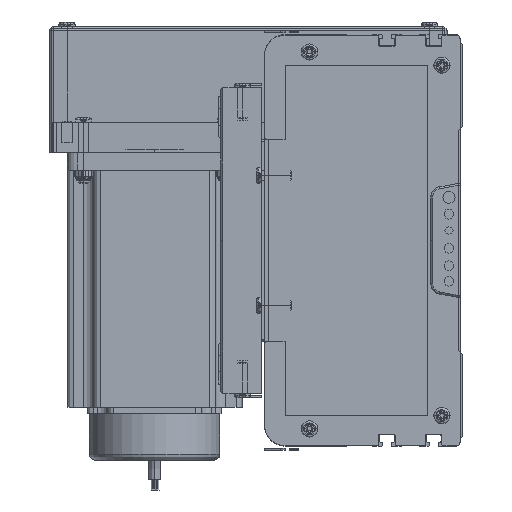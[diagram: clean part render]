
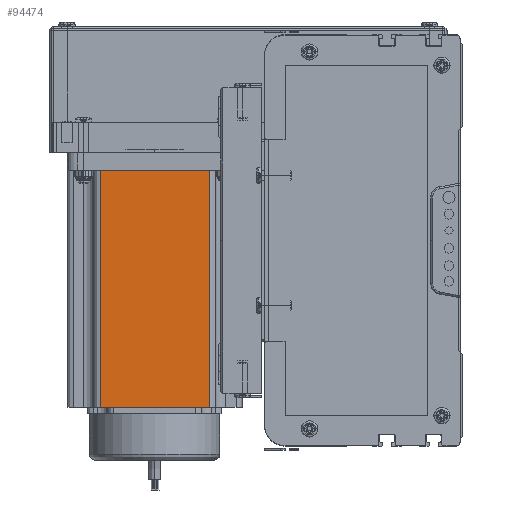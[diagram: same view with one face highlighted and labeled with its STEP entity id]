
A CAD part, left-side view. The second image highlights one B-rep face of the part: STEP entity #94474.
In plain terms, the highlighted planar face has unit normal (-1, 0, 0) as drawn and (0, -1, 0) by its records, which use the part's own axes.
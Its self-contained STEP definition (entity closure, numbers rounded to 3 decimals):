
#78173 = ORIENTED_EDGE ( 'NONE', *, *, #94440, .T. ) ;
#94440 = EDGE_CURVE ( 'NONE', #94651, #94477, #115618, .T. ) ;
#94463 = ORIENTED_EDGE ( 'NONE', *, *, #94666, .T. ) ;
#94465 = ORIENTED_EDGE ( 'NONE', *, *, #94657, .F. ) ;
#94474 = ADVANCED_FACE ( 'NONE', ( #115851 ), #115582, .F. ) ;
#94477 = VERTEX_POINT ( 'NONE', #115834 ) ;
#94478 = VERTEX_POINT ( 'NONE', #115849 ) ;
#94647 = ORIENTED_EDGE ( 'NONE', *, *, #94650, .T. ) ;
#94650 = EDGE_CURVE ( 'NONE', #94477, #94478, #117648, .T. ) ;
#94651 = VERTEX_POINT ( 'NONE', #117639 ) ;
#94657 = EDGE_CURVE ( 'NONE', #94662, #94478, #117644, .T. ) ;
#94662 = VERTEX_POINT ( 'NONE', #117083 ) ;
#94666 = EDGE_CURVE ( 'NONE', #94662, #94651, #117074, .T. ) ;
#94915 = EDGE_LOOP ( 'NONE', ( #78173, #94647, #94465, #94463 ) ) ;
#115577 = DIRECTION ( 'NONE',  ( 0., 0., 1. ) ) ;
#115578 = DIRECTION ( 'NONE',  ( 0., 1., 0. ) ) ;
#115580 = CARTESIAN_POINT ( 'NONE',  ( 0., 0., 116.5 ) ) ;
#115581 = AXIS2_PLACEMENT_3D ( 'NONE', #115580, #115578, #115577 ) ;
#115582 = PLANE ( 'NONE',  #115581 ) ;
#115618 = LINE ( 'NONE', #115648, #115637 ) ;
#115635 = DIRECTION ( 'NONE',  ( 1., 0., 0. ) ) ;
#115637 = VECTOR ( 'NONE', #115635, 1000. ) ;
#115648 = CARTESIAN_POINT ( 'NONE',  ( 0., 0., 0. ) ) ;
#115834 = CARTESIAN_POINT ( 'NONE',  ( 69.74, 0., 0. ) ) ;
#115849 = CARTESIAN_POINT ( 'NONE',  ( 69.74, 0., 116.5 ) ) ;
#115851 = FACE_OUTER_BOUND ( 'NONE', #94915, .T. ) ;
#117061 = DIRECTION ( 'NONE',  ( 1., 0., 0. ) ) ;
#117063 = VECTOR ( 'NONE', #117061, 1000. ) ;
#117065 = CARTESIAN_POINT ( 'NONE',  ( 0., 0., 116.5 ) ) ;
#117073 = CARTESIAN_POINT ( 'NONE',  ( 16.16, 0., 116.5 ) ) ;
#117074 = LINE ( 'NONE', #117073, #117596 ) ;
#117083 = CARTESIAN_POINT ( 'NONE',  ( 16.16, 0., 116.5 ) ) ;
#117595 = DIRECTION ( 'NONE',  ( 0., 0., -1. ) ) ;
#117596 = VECTOR ( 'NONE', #117595, 1000. ) ;
#117639 = CARTESIAN_POINT ( 'NONE',  ( 16.16, 0., 0. ) ) ;
#117644 = LINE ( 'NONE', #117065, #117063 ) ;
#117645 = DIRECTION ( 'NONE',  ( 0., 0., 1. ) ) ;
#117646 = VECTOR ( 'NONE', #117645, 1000. ) ;
#117647 = CARTESIAN_POINT ( 'NONE',  ( 69.74, 0., 116.5 ) ) ;
#117648 = LINE ( 'NONE', #117647, #117646 ) ;
